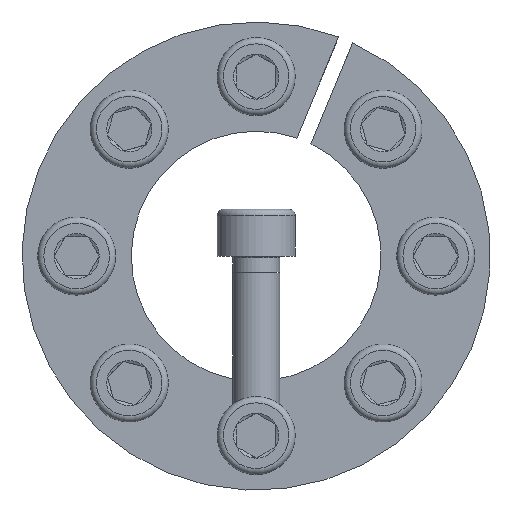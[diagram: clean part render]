
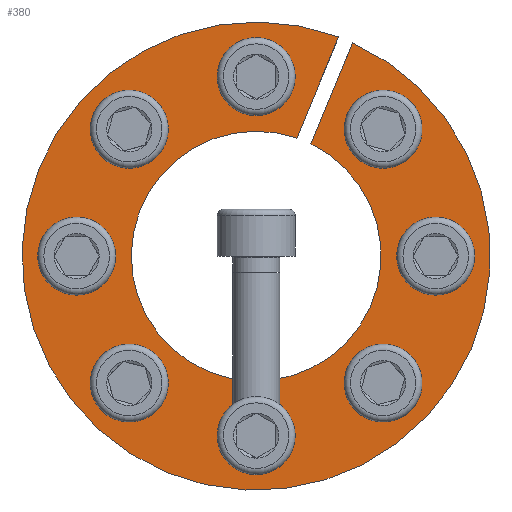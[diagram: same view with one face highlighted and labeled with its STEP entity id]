
A CAD part, front view. The second image highlights one B-rep face of the part: STEP entity #380.
In plain terms, the highlighted planar face has unit normal (0, -1, 0).
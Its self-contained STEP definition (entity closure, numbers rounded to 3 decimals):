
#380 = ADVANCED_FACE( '', ( #583, #584, #585, #586, #587, #588, #589, #590, #591 ), #592, .F. );
#583 = FACE_BOUND( '', #747, .T. );
#584 = FACE_BOUND( '', #748, .T. );
#585 = FACE_BOUND( '', #749, .T. );
#586 = FACE_BOUND( '', #750, .T. );
#587 = FACE_OUTER_BOUND( '', #751, .T. );
#588 = FACE_BOUND( '', #752, .T. );
#589 = FACE_BOUND( '', #753, .T. );
#590 = FACE_BOUND( '', #754, .T. );
#591 = FACE_BOUND( '', #755, .T. );
#592 = PLANE( '', #756 );
#747 = EDGE_LOOP( '', ( #960 ) );
#748 = EDGE_LOOP( '', ( #961 ) );
#749 = EDGE_LOOP( '', ( #962 ) );
#750 = EDGE_LOOP( '', ( #963 ) );
#751 = EDGE_LOOP( '', ( #964, #965, #966, #967 ) );
#752 = EDGE_LOOP( '', ( #968 ) );
#753 = EDGE_LOOP( '', ( #969 ) );
#754 = EDGE_LOOP( '', ( #970 ) );
#755 = EDGE_LOOP( '', ( #971 ) );
#756 = AXIS2_PLACEMENT_3D( '', #972, #973, #974 );
#960 = ORIENTED_EDGE( '', *, *, #1294, .T. );
#961 = ORIENTED_EDGE( '', *, *, #1295, .T. );
#962 = ORIENTED_EDGE( '', *, *, #1296, .T. );
#963 = ORIENTED_EDGE( '', *, *, #1297, .T. );
#964 = ORIENTED_EDGE( '', *, *, #1292, .F. );
#965 = ORIENTED_EDGE( '', *, *, #1288, .F. );
#966 = ORIENTED_EDGE( '', *, *, #1298, .T. );
#967 = ORIENTED_EDGE( '', *, *, #1299, .F. );
#968 = ORIENTED_EDGE( '', *, *, #1300, .T. );
#969 = ORIENTED_EDGE( '', *, *, #1301, .T. );
#970 = ORIENTED_EDGE( '', *, *, #1302, .T. );
#971 = ORIENTED_EDGE( '', *, *, #1303, .T. );
#972 = CARTESIAN_POINT( '', ( 0., 0., 30. ) );
#973 = DIRECTION( '', ( 0., 1., 0. ) );
#974 = DIRECTION( '', ( 0., 0., 1. ) );
#1288 = EDGE_CURVE( '', #1423, #1425, #1426, .T. );
#1292 = EDGE_CURVE( '', #1425, #1432, #1433, .T. );
#1294 = EDGE_CURVE( '', #1435, #1435, #1436, .T. );
#1295 = EDGE_CURVE( '', #1437, #1437, #1438, .T. );
#1296 = EDGE_CURVE( '', #1439, #1439, #1440, .T. );
#1297 = EDGE_CURVE( '', #1441, #1441, #1442, .T. );
#1298 = EDGE_CURVE( '', #1423, #1443, #1444, .T. );
#1299 = EDGE_CURVE( '', #1432, #1443, #1445, .T. );
#1300 = EDGE_CURVE( '', #1446, #1446, #1447, .T. );
#1301 = EDGE_CURVE( '', #1448, #1448, #1449, .T. );
#1302 = EDGE_CURVE( '', #1450, #1450, #1451, .T. );
#1303 = EDGE_CURVE( '', #1452, #1452, #1453, .T. );
#1423 = VERTEX_POINT( '', #1551 );
#1425 = VERTEX_POINT( '', #1554 );
#1426 = LINE( '', #1555, #1556 );
#1432 = VERTEX_POINT( '', #1564 );
#1433 = CIRCLE( '', #1565, 16. );
#1435 = VERTEX_POINT( '', #1568 );
#1436 = CIRCLE( '', #1569, 3. );
#1437 = VERTEX_POINT( '', #1570 );
#1438 = CIRCLE( '', #1571, 3. );
#1439 = VERTEX_POINT( '', #1572 );
#1440 = CIRCLE( '', #1573, 3. );
#1441 = VERTEX_POINT( '', #1574 );
#1442 = CIRCLE( '', #1575, 3. );
#1443 = VERTEX_POINT( '', #1576 );
#1444 = CIRCLE( '', #1577, 30. );
#1445 = LINE( '', #1578, #1579 );
#1446 = VERTEX_POINT( '', #1580 );
#1447 = CIRCLE( '', #1581, 3. );
#1448 = VERTEX_POINT( '', #1582 );
#1449 = CIRCLE( '', #1583, 3. );
#1450 = VERTEX_POINT( '', #1584 );
#1451 = CIRCLE( '', #1585, 3. );
#1452 = VERTEX_POINT( '', #1586 );
#1453 = CIRCLE( '', #1587, 3. );
#1551 = CARTESIAN_POINT( '', ( 10.566, 0., 28.078 ) );
#1554 = CARTESIAN_POINT( '', ( 5.203, 0., 15.131 ) );
#1555 = CARTESIAN_POINT( '', ( 10.572, 0., 28.093 ) );
#1556 = VECTOR( '', #1674, 1000. );
#1564 = CARTESIAN_POINT( '', ( 7.02, 0., 14.378 ) );
#1565 = AXIS2_PLACEMENT_3D( '', #1680, #1681, #1682 );
#1568 = CARTESIAN_POINT( '', ( -23., 0., 3. ) );
#1569 = AXIS2_PLACEMENT_3D( '', #1684, #1685, #1686 );
#1570 = CARTESIAN_POINT( '', ( -3., 0., -23. ) );
#1571 = AXIS2_PLACEMENT_3D( '', #1687, #1688, #1689 );
#1572 = CARTESIAN_POINT( '', ( 23., 0., -3. ) );
#1573 = AXIS2_PLACEMENT_3D( '', #1690, #1691, #1692 );
#1574 = CARTESIAN_POINT( '', ( 3., 0., 23. ) );
#1575 = AXIS2_PLACEMENT_3D( '', #1693, #1694, #1695 );
#1576 = CARTESIAN_POINT( '', ( 12.383, 0., 27.325 ) );
#1577 = AXIS2_PLACEMENT_3D( '', #1696, #1697, #1698 );
#1578 = CARTESIAN_POINT( '', ( 7.02, 0., 14.378 ) );
#1579 = VECTOR( '', #1699, 1000. );
#1580 = CARTESIAN_POINT( '', ( 18.385, 0., 14.142 ) );
#1581 = AXIS2_PLACEMENT_3D( '', #1700, #1701, #1702 );
#1582 = CARTESIAN_POINT( '', ( 14.142, 0., -18.385 ) );
#1583 = AXIS2_PLACEMENT_3D( '', #1703, #1704, #1705 );
#1584 = CARTESIAN_POINT( '', ( -18.385, 0., -14.142 ) );
#1585 = AXIS2_PLACEMENT_3D( '', #1706, #1707, #1708 );
#1586 = CARTESIAN_POINT( '', ( -14.142, 0., 18.385 ) );
#1587 = AXIS2_PLACEMENT_3D( '', #1709, #1710, #1711 );
#1674 = DIRECTION( '', ( -0.383, 0., -0.924 ) );
#1680 = CARTESIAN_POINT( '', ( 0., 0., 0. ) );
#1681 = DIRECTION( '', ( 0., -1., 0. ) );
#1682 = DIRECTION( '', ( 0., 0., -1. ) );
#1684 = CARTESIAN_POINT( '', ( -23., 0., 0. ) );
#1685 = DIRECTION( '', ( 0., 1., 0. ) );
#1686 = DIRECTION( '', ( 0., 0., 1. ) );
#1687 = CARTESIAN_POINT( '', ( 0., 0., -23. ) );
#1688 = DIRECTION( '', ( 0., 1., 0. ) );
#1689 = DIRECTION( '', ( -1., 0., 0. ) );
#1690 = CARTESIAN_POINT( '', ( 23., 0., 0. ) );
#1691 = DIRECTION( '', ( 0., 1., 0. ) );
#1692 = DIRECTION( '', ( 0., 0., -1. ) );
#1693 = CARTESIAN_POINT( '', ( 0., 0., 23. ) );
#1694 = DIRECTION( '', ( 0., 1., 0. ) );
#1695 = DIRECTION( '', ( 1., 0., 0. ) );
#1696 = CARTESIAN_POINT( '', ( 0., 0., 0. ) );
#1697 = DIRECTION( '', ( 0., -1., 0. ) );
#1698 = DIRECTION( '', ( 0., 0., -1. ) );
#1699 = DIRECTION( '', ( 0.383, 0., 0.924 ) );
#1700 = CARTESIAN_POINT( '', ( 16.263, 0., 16.263 ) );
#1701 = DIRECTION( '', ( 0., 1., 0. ) );
#1702 = DIRECTION( '', ( 0.707, 0., -0.707 ) );
#1703 = CARTESIAN_POINT( '', ( 16.263, 0., -16.263 ) );
#1704 = DIRECTION( '', ( 0., 1., 0. ) );
#1705 = DIRECTION( '', ( -0.707, 0., -0.707 ) );
#1706 = CARTESIAN_POINT( '', ( -16.263, 0., -16.263 ) );
#1707 = DIRECTION( '', ( 0., 1., 0. ) );
#1708 = DIRECTION( '', ( -0.707, 0., 0.707 ) );
#1709 = CARTESIAN_POINT( '', ( -16.263, 0., 16.263 ) );
#1710 = DIRECTION( '', ( 0., 1., 0. ) );
#1711 = DIRECTION( '', ( 0.707, 0., 0.707 ) );
